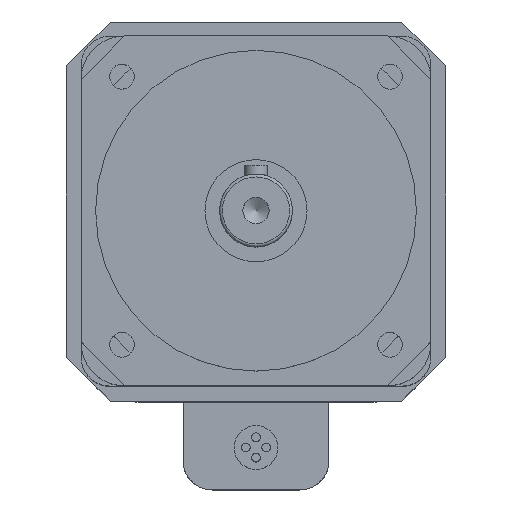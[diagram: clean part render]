
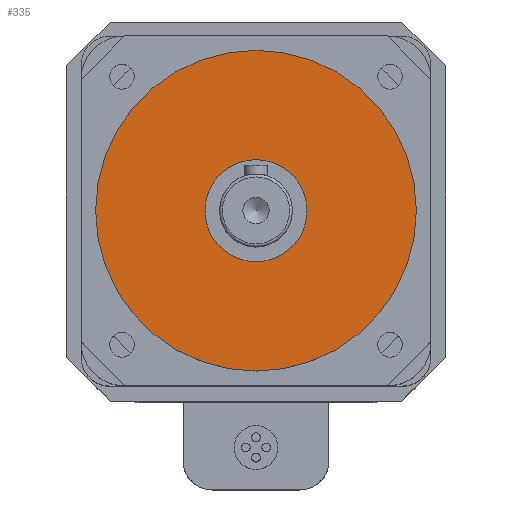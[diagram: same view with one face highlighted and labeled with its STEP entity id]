
A CAD part, top view. The second image highlights one B-rep face of the part: STEP entity #335.
In plain terms, the highlighted planar face has unit normal (0, 0, 1).
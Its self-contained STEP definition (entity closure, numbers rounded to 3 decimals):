
#119=PLANE('',#2695);
#335=ADVANCED_FACE('',(#1011,#1012),#119,.F.);
#1011=FACE_BOUND('',#1065,.T.);
#1012=FACE_BOUND('',#1066,.T.);
#1065=EDGE_LOOP('',(#1270));
#1066=EDGE_LOOP('',(#1271));
#1270=ORIENTED_EDGE('',*,*,#2226,.F.);
#1271=ORIENTED_EDGE('',*,*,#2223,.F.);
#1979=VERTEX_POINT('',#3866);
#1982=VERTEX_POINT('',#3875);
#2223=EDGE_CURVE('',#1979,#1979,#2557,.T.);
#2226=EDGE_CURVE('',#1982,#1982,#2560,.T.);
#2557=CIRCLE('',#2687,17.5);
#2560=CIRCLE('',#2693,55.);
#2687=AXIS2_PLACEMENT_3D('',#3865,#3009,#3010);
#2693=AXIS2_PLACEMENT_3D('',#3874,#3021,#3022);
#2695=AXIS2_PLACEMENT_3D('',#3877,#3025,#3026);
#3009=DIRECTION('',(0.,0.,1.));
#3010=DIRECTION('',(1.,0.,0.));
#3021=DIRECTION('',(0.,0.,-1.));
#3022=DIRECTION('',(1.,0.,0.));
#3025=DIRECTION('',(0.,0.,-1.));
#3026=DIRECTION('',(-1.,0.,0.));
#3865=CARTESIAN_POINT('',(0.,0.,6.));
#3866=CARTESIAN_POINT('',(17.5,0.,6.));
#3874=CARTESIAN_POINT('',(0.,0.,6.));
#3875=CARTESIAN_POINT('',(55.,0.,6.));
#3877=CARTESIAN_POINT('',(0.,0.,6.));
